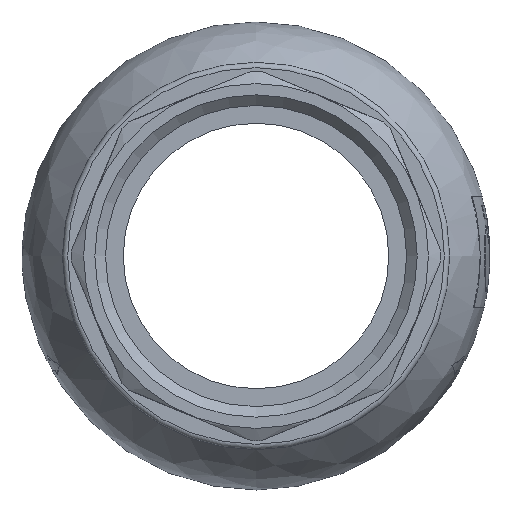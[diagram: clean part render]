
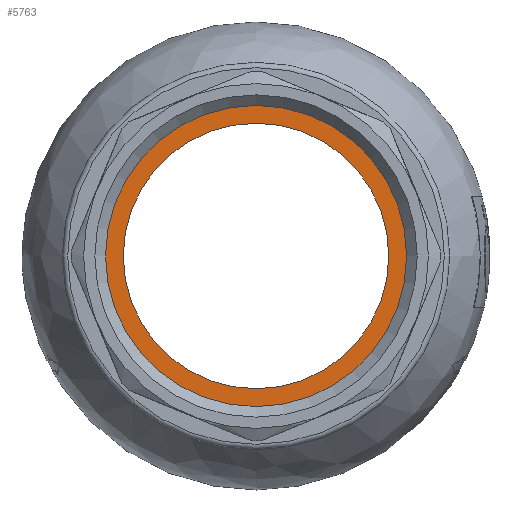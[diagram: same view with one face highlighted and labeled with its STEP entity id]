
A CAD part, left-side view. The second image highlights one B-rep face of the part: STEP entity #5763.
In plain terms, the highlighted planar face has unit normal (-1, 0, 0).
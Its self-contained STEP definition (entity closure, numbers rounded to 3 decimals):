
#5707=CARTESIAN_POINT('',(18.935,-0.,-28.35));
#5708=VERTEX_POINT('',#5707);
#5717=CARTESIAN_POINT('',(18.935,0.,-0.));
#5718=DIRECTION('',(1.,0.,-0.));
#5719=DIRECTION('',(-0.,0.,-1.));
#5720=AXIS2_PLACEMENT_3D('',#5717,#5718,#5719);
#5721=CIRCLE('',#5720,28.35);
#5722=EDGE_CURVE('',#5708,#5708,#5721,.T.);
#5744=CARTESIAN_POINT('',(18.935,0.,-0.));
#5745=DIRECTION('',(1.,0.,-0.));
#5746=DIRECTION('',(-0.,0.,-1.));
#5747=AXIS2_PLACEMENT_3D('',#5744,#5745,#5746);
#5748=PLANE('',#5747);
#5749=CARTESIAN_POINT('',(18.935,0.,-25.));
#5750=VERTEX_POINT('',#5749);
#5751=CARTESIAN_POINT('',(18.935,0.,0.));
#5752=DIRECTION('',(1.,0.,-0.));
#5753=DIRECTION('',(-0.,0.,-1.));
#5754=AXIS2_PLACEMENT_3D('',#5751,#5752,#5753);
#5755=CIRCLE('',#5754,25.);
#5756=EDGE_CURVE('',#5750,#5750,#5755,.T.);
#5757=ORIENTED_EDGE('',*,*,#5756,.T.);
#5758=EDGE_LOOP('',(#5757));
#5759=FACE_BOUND('',#5758,.T.);
#5760=ORIENTED_EDGE('',*,*,#5722,.F.);
#5761=EDGE_LOOP('',(#5760));
#5762=FACE_BOUND('',#5761,.T.);
#5763=ADVANCED_FACE('',(#5759,#5762),#5748,.F.);
